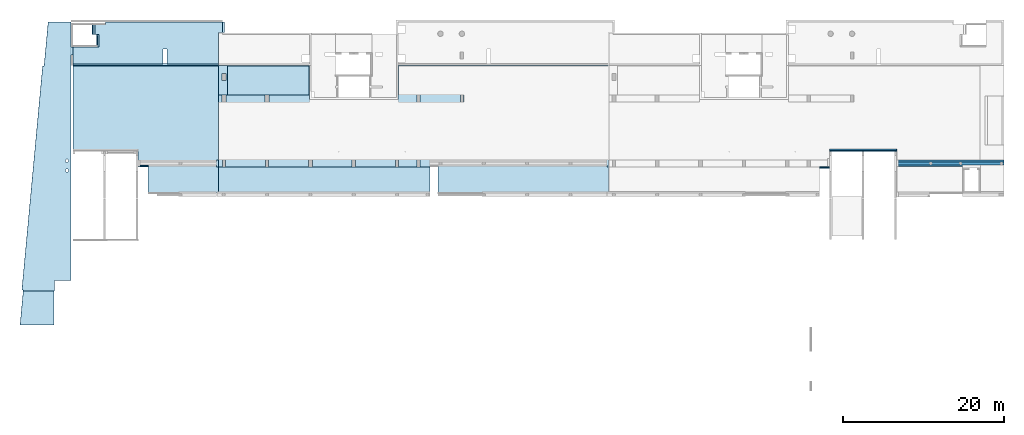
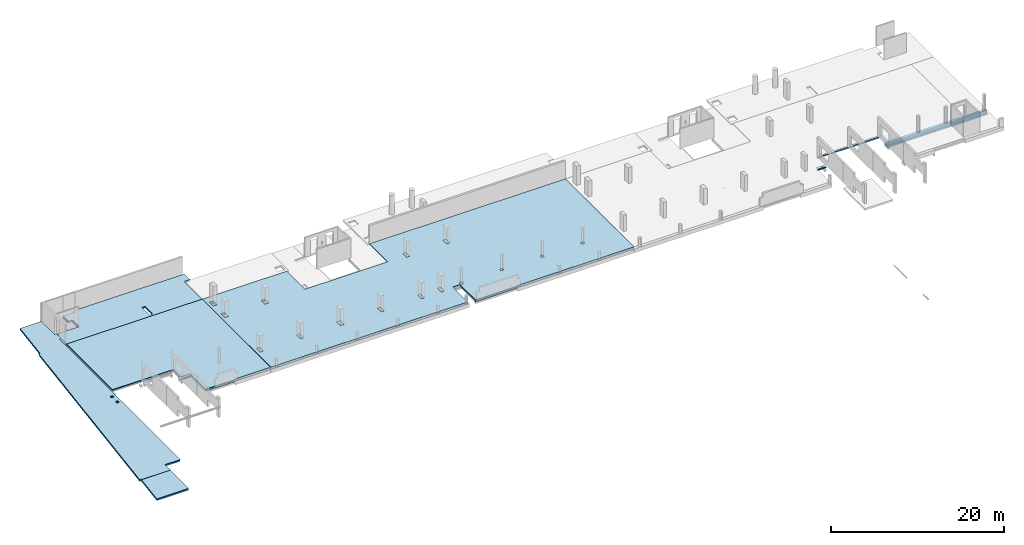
# One storey, part 2 of 8: 14 slabs, 4 beams, 30 openings.
"""IFC2X3 building model written with IfcOpenShell, lengths in millimetres."""

from ifc_helpers import new_model, entity, si_unit, converted_unit, derived_unit, direction, frame, frame_2d, origin, origin_2d_with_axis, place, context, subcontext, project, spatial, polyline, circle_curve, parameter, trimmed, segment, composite_curve, rectangle, circle, outline, extrude, faceted_brep, material, layer, layer_set, layer_usage, type_object, element, save


model = new_model("IFC2X3")

# Units and contexts
model_context = context("Model", 3, precision=0.01, world=origin(), true_north=direction((6.12303176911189e-17, 1.0)))
body_context = subcontext(model_context, "Body", "Model", "MODEL_VIEW")
ifc_project = project(units=[si_unit("LENGTHUNIT", "METRE", prefix="MILLI"), si_unit("AREAUNIT", "SQUARE_METRE"), si_unit("VOLUMEUNIT", "CUBIC_METRE"), converted_unit("PLANEANGLEUNIT", "DEGREE", entity("IfcRatioMeasure", 0.0174532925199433), si_unit("PLANEANGLEUNIT", "RADIAN"), dimensions=[0, 0, 0, 0, 0, 0, 0]), si_unit("MASSUNIT", "GRAM", prefix="KILO"), derived_unit("MASSDENSITYUNIT", [(si_unit("MASSUNIT", "GRAM", prefix="KILO"), 1), (si_unit("LENGTHUNIT", "METRE"), -3)]), si_unit("TIMEUNIT", "SECOND"), si_unit("FREQUENCYUNIT", "HERTZ"), si_unit("THERMODYNAMICTEMPERATUREUNIT", "DEGREE_CELSIUS"), derived_unit("THERMALTRANSMITTANCEUNIT", [(si_unit("MASSUNIT", "GRAM", prefix="KILO"), 1), (si_unit("THERMODYNAMICTEMPERATUREUNIT", "KELVIN"), -1), (si_unit("TIMEUNIT", "SECOND"), -3)]), derived_unit("VOLUMETRICFLOWRATEUNIT", [(si_unit("LENGTHUNIT", "METRE"), 3), (si_unit("TIMEUNIT", "SECOND"), -1)]), si_unit("ELECTRICCURRENTUNIT", "AMPERE"), si_unit("ELECTRICVOLTAGEUNIT", "VOLT"), si_unit("POWERUNIT", "WATT"), si_unit("FORCEUNIT", "NEWTON", prefix="KILO"), si_unit("ILLUMINANCEUNIT", "LUX"), si_unit("LUMINOUSFLUXUNIT", "LUMEN"), si_unit("LUMINOUSINTENSITYUNIT", "CANDELA"), derived_unit("USERDEFINED", [(si_unit("MASSUNIT", "GRAM", prefix="KILO"), -1), (si_unit("LENGTHUNIT", "METRE"), -2), (si_unit("TIMEUNIT", "SECOND"), 3), (si_unit("LUMINOUSFLUXUNIT", "LUMEN"), 1)]), derived_unit("LINEARVELOCITYUNIT", [(si_unit("LENGTHUNIT", "METRE"), 1), (si_unit("TIMEUNIT", "SECOND"), -1)]), si_unit("PRESSUREUNIT", "PASCAL"), derived_unit("USERDEFINED", [(si_unit("LENGTHUNIT", "METRE"), -2), (si_unit("MASSUNIT", "GRAM", prefix="KILO"), 1), (si_unit("TIMEUNIT", "SECOND"), -2)])], contexts=[model_context])

# Site, building, storey
site_placement = place(None, origin())
site = spatial("IfcSite", under=ifc_project, at=site_placement, Name="Default", CompositionType="ELEMENT")
building_placement = place(site_placement, origin())
building = spatial("IfcBuilding", under=site, at=building_placement, Name="niet gebruiken", CompositionType="ELEMENT")
storey_placement = place(building_placement, frame((0.0, 0.0, 3810.0)))
storey = spatial("IfcBuildingStorey", under=building, at=storey_placement, Name="01a eerste tussenverdieping", CompositionType="ELEMENT", Elevation=3810.0)

# Beams
ifc_material_1 = material(Name="NLRS_f2_beton prefab")
beam_type_1 = type_object("IfcBeamType", Name="NLRS_28.11_SF_WPB_prefabbeton balk dubbele sponning_gen:800x460/200x260/200x260", PredefinedType="BEAM")
beam_1_placement = place(storey_placement, frame((110845.0, 28881.0, -70.0)))
element("IfcBeam", 1, at=beam_1_placement, inside=storey, type_object=beam_type_1, material=ifc_material_1, Name="NLRS_28.11_SF_WPB_prefabbeton balk dubbele sponning_gen:800x460/200x260/200x260", ObjectType="NLRS_28.11_SF_WPB_prefabbeton balk dubbele sponning_gen:800x460/200x260/200x260", context=body_context, shape_type="SweptSolid", body=[
    extrude(outline(polyline([(15.0, -400.0), (215.0, -400.0), (215.0, 400.0), (15.0, 400.0), (15.0, 200.0), (-245.0, 200.0), (-245.0, -200.0), (15.0, -200.0), (15.0, -400.0)])), frame((0.0, 0.0, -245.0), z_axis=(1.0, 0.0, 0.0), x_axis=(0.0, 0.0, -1.0)), (0.0, 0.0, 1.0), 13354.999999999),
])
ifc_material_2 = material(Name="NLRS_h2_staal")
beam_type_2 = type_object("IfcBeamType", Name="NLRS_28.11_SF_WPB_stalen ligger hoekprofiel gelijkzijdig_gen:ligger gelijzijdig hoekprofiel LEQU_200x200x15", PredefinedType="BEAM")
beam_2_placement = place(storey_placement, frame((102475.0, 30626.0, -252.499999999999)))
element("IfcBeam", 2, at=beam_2_placement, inside=storey, type_object=beam_type_2, material=ifc_material_2, Name="NLRS_28.11_SF_WPB_stalen ligger hoekprofiel gelijkzijdig_gen:ligger gelijzijdig hoekprofiel LEQU_200x200x15", ObjectType="NLRS_28.11_SF_WPB_stalen ligger hoekprofiel gelijkzijdig_gen:ligger gelijzijdig hoekprofiel LEQU_200x200x15", context=body_context, shape_type="SweptSolid", body=[
    extrude(outline(composite_curve([segment(polyline([(-126.666666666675, -73.333333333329), (73.3333333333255, -73.333333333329)]), True, "CONTINUOUS"), segment(polyline([(73.333333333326, -73.3333333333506), (73.3333333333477, 126.666666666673)]), True, "CONTINUOUS"), segment(polyline([(73.3333333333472, 126.666666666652), (66.3333333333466, 126.666666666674)]), True, "CONTINUOUS"), segment(trimmed(circle_curve(frame_2d((66.3333333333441, 118.666666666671), x_axis=(0.0, 1.0)), 7.99999999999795), [parameter(0.0)], [parameter(90.0000000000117)], True, "PARAMETER"), True, "CONTINUOUS"), segment(polyline([(58.3333333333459, 118.666666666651), (58.3333333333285, -42.3333333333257)]), True, "CONTINUOUS"), segment(trimmed(circle_curve(frame_2d((42.3333333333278, -42.333333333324), x_axis=(1.0, 0.0)), 16.0000000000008), [parameter(270.000000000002)], [parameter(0.0)], True, "PARAMETER"), False, "CONTINUOUS"), segment(polyline([(42.3333333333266, -58.3333333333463), (-118.666666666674, -58.3333333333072)]), True, "CONTINUOUS"), segment(trimmed(circle_curve(frame_2d((-118.666666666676, -66.3333333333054), x_axis=(0.0, 1.0)), 7.99999999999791), [parameter(0.0)], [parameter(90.0000000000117)], True, "PARAMETER"), True, "CONTINUOUS"), segment(polyline([(-126.666666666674, -66.3333333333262), (-126.666666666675, -73.3333333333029)]), True, "CONTINUOUS")], self_intersect=False)), frame((0.0, -126.66666666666, -19.1666666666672), z_axis=(1.0, 0.0, 0.0), x_axis=(0.0, 0.0, -1.0)), (0.0, 0.0, 1.0), 8349.99999999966),
])
beam_type_3 = type_object("IfcBeamType", Name="NLRS_28.11_SF_WPB_prefabbeton balk recht_gen:200x140", PredefinedType="BEAM")
beam_3_placement = place(storey_placement, frame((16345.0, 28481.0, -330.0)))
element("IfcBeam", 3, at=beam_3_placement, inside=storey, type_object=beam_type_3, material=ifc_material_1, Name="NLRS_28.11_SF_WPB_prefabbeton balk recht_gen:200x140", ObjectType="NLRS_28.11_SF_WPB_prefabbeton balk recht_gen:200x140", context=body_context, shape_type="Brep", body=[
    faceted_brep([(0.0, 200.0, 140.0), (0.0, 200.0, 0.0), (0.0, 0.0, 0.0), (0.0, 0.0, 140.0), (1270.0, 0.0, 0.0), (1270.0, 200.0, 0.0), (1270.0, 200.0, 140.0), (1270.0, 180.0, 140.0), (1270.0, 180.0, 5.0), (1270.0, 0.0, 5.0), (1250.0, 0.0, 5.0), (1250.0, 0.0, 140.0), (1250.0, 180.0, 140.0), (1250.0, 180.0, 5.0)], [[[0, 1, 2, 3]], [[4, 5, 6, 7, 8, 9]], [[1, 0, 6, 5]], [[2, 1, 5, 4]], [[3, 2, 4, 9, 10, 11]], [[0, 3, 11, 12, 7, 6]], [[8, 13, 10, 9]], [[10, 13, 12, 11]], [[13, 8, 7, 12]]]),
])
beam_4_placement = place(storey_placement, frame((101225.1, 28356.0, -190.0)))
element("IfcBeam", 4, at=beam_4_placement, inside=storey, type_object=beam_type_3, material=ifc_material_1, Name="NLRS_28.11_SF_WPB_prefabbeton balk recht_gen:200x140", ObjectType="NLRS_28.11_SF_WPB_prefabbeton balk recht_gen:200x140", context=body_context, shape_type="SweptSolid", body=[
    extrude(rectangle(XDim=140.0, YDim=199.999999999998, at=frame_2d((-2.70006239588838e-13, 4.33431068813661e-12), x_axis=(1.0, 0.0))), frame((0.0, 0.0, -70.0), z_axis=(1.0, 0.0, 0.0), x_axis=(0.0, 0.0, -1.0)), (0.0, 0.0, 1.0), 1229.90000000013),
])

# Slabs
ifc_layer_1 = layer(ifc_material_1, 255.0)
ifc_layer_set_1 = layer_set([ifc_layer_1], Name="Floor:NLRS_23.21_FL_kanaalplaat d=255_gen")
ifc_layer_usage_1 = layer_usage(ifc_layer_set_1, "AXIS3", "POSITIVE", 0.0)
slab_1_placement = place(storey_placement, origin())
element("IfcSlab", 5, at=slab_1_placement, inside=storey, material=ifc_layer_usage_1, Name="Floor:NLRS_23.21_FL_kanaalplaat d=255_gen", ObjectType="Floor:NLRS_23.21_FL_kanaalplaat d=255_gen", PredefinedType="FLOOR", context=body_context, shape_type="SweptSolid", body=[
    extrude(outline(polyline([(-1732.50000000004, -11947.4999999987), (1807.49999999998, -11947.4999999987), (1807.49999999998, 9092.50000000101), (1582.50000000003, 9092.50000000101), (1582.50000000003, 9312.50000000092), (-1657.5, 9312.50000000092), (-1657.5, -6457.50000000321), (-1732.50000000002, -6457.50000000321), (-1732.50000000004, -11947.4999999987)])), frame((65637.4999999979, 26853.5, -70.0), z_axis=(0.0, 0.0, -1.0), x_axis=(0.0, 1.0, 0.0)), (0.0, 0.0, 1.0), 255.0),
])
ifc_layer_usage_2 = layer_usage(ifc_layer_set_1, "AXIS3", "POSITIVE", 0.0)
slab_2_placement = place(storey_placement, origin())
element("IfcSlab", 6, at=slab_2_placement, inside=storey, material=ifc_layer_usage_2, Name="Floor:NLRS_23.21_FL_kanaalplaat d=255_gen", ObjectType="Floor:NLRS_23.21_FL_kanaalplaat d=255_gen", PredefinedType="FLOOR", context=body_context, shape_type="SweptSolid", body=[
    extrude(rectangle(XDim=3240.00000000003, YDim=26329.9999999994, at=frame_2d((2.1600499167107e-12, -2.72848410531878e-12), x_axis=(1.0, 0.0))), frame((39535.0, 26816.0, -70.0), z_axis=(0.0, 0.0, -1.0), x_axis=(0.0, 1.0, 0.0)), (0.0, 0.0, 1.0), 255.0),
])
ifc_layer_usage_3 = layer_usage(ifc_layer_set_1, "AXIS3", "POSITIVE", 0.0)
slab_3_placement = place(storey_placement, origin())
element("IfcSlab", 7, at=slab_3_placement, inside=storey, material=ifc_layer_usage_3, Name="Floor:NLRS_23.21_FL_kanaalplaat d=255_gen", ObjectType="Floor:NLRS_23.21_FL_kanaalplaat d=255_gen", PredefinedType="FLOOR", context=body_context, shape_type="SweptSolid", body=[
    extrude(outline(polyline([(-1732.49999999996, -5273.75000000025), (1807.50000000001, -5273.75000000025), (1807.50000000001, 3261.25000000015), (1582.49999999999, 3261.25000000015), (1582.49999999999, 3481.25000000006), (-1657.50000000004, 3481.25000000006), (-1657.50000000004, -1468.74999999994), (-1732.49999999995, -1468.74999999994), (-1732.49999999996, -5273.75000000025)])), frame((22868.7499999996, 26853.5, -70.0), z_axis=(0.0, 0.0, -1.0), x_axis=(0.0, 1.0, 0.0)), (0.0, 0.0, 1.0), 255.0),
])
ifc_material_3 = material(Name="NLRS_f2_beton ihwg")
ifc_layer_2 = layer(ifc_material_3, 70.0)
ifc_layer_set_2 = layer_set([ifc_layer_2], Name="Floor:NLRS_23.21_FL_druklaag d=70 - gevlinderd en ingestrooid_gen")
ifc_layer_usage_4 = layer_usage(ifc_layer_set_2, "AXIS3", "POSITIVE", 0.0)
slab_4_placement = place(storey_placement, origin())
element("IfcSlab", 8, at=slab_4_placement, inside=storey, material=ifc_layer_usage_4, Name="Floor:NLRS_23.21_FL_druklaag d=70 - gevlinderd en ingestrooid_gen", ObjectType="Floor:NLRS_23.21_FL_druklaag d=70 - gevlinderd en ingestrooid_gen", PredefinedType="FLOOR", context=body_context, shape_type="SweptSolid", body=[
    extrude(outline(polyline([(337.0, -9758.0), (10972.0, -9758.0), (10972.0, 8367.0), (-4913.0, 8367.0), (-4913.0, 3417.0), (-4988.0, 3417.0), (-4988.0, -388.0), (-1408.0, -388.0), (-1408.0, -1638.0), (337.0, -1638.0), (337.0, -9758.0)])), frame((17983.0, 30089.0, 0.0), z_axis=(0.0, 0.0, -1.0), x_axis=(0.0, 1.0, 0.0)), (0.0, 0.0, 1.0), 69.9999999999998),
])

# Slab, openings
ifc_layer_usage_5 = layer_usage(ifc_layer_set_2, "AXIS3", "POSITIVE", 0.0)
slab_5_placement = place(storey_placement, frame((26370.0, 25101.0, -70.0)))
slab_5 = element("IfcSlab", 9, at=slab_5_placement, inside=storey, material=ifc_layer_usage_5, Name="Floor:NLRS_23.21_FL_druklaag d=70 - gevlinderd en ingestrooid_gen", ObjectType="Floor:NLRS_23.21_FL_druklaag d=70 - gevlinderd en ingestrooid_gen", PredefinedType="FLOOR", context=body_context, shape_type="SweptSolid", body=[
    extrude(outline(polyline([(24290.0, -7905.0), (24290.0, 7980.0), (12985.0, 7980.0), (12985.0, 3775.0), (1935.0, 3775.0), (1935.0, 7980.0), (-24290.0, 7980.0), (-24290.0, -7905.0), (-8540.0, -7905.0), (-8540.0, -7980.0), (-3030.0, -7980.0), (-3030.0, -4400.0), (-2040.0, -4400.0), (-2040.0, -7905.0), (24290.0, -7905.0)])), frame((24290.0, 7980.0, 70.0), z_axis=(0.0, 0.0, -1.0), x_axis=(-1.0, 0.0, 0.0)), (0.0, 0.0, 1.0), 69.9999999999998),
])
opening_1_placement = place(storey_placement, frame((26370.0, 25101.0, -70.0)))
element("IfcOpeningElement", 10, at=opening_1_placement, cuts=slab_5, ObjectType="Opening", context=body_context, shape_type="SweptSolid", body=[
    extrude(circle(Radius=37.5, at=frame_2d((1060.0, -2725.0), x_axis=(1.0, 0.0))), frame((24290.0, 7980.0, 70.0), z_axis=(0.0, 0.0, -1.0), x_axis=(-1.0, 0.0, 0.0)), (0.0, 0.0, 1.0), 69.9999999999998),
])
opening_2_placement = place(storey_placement, frame((26370.0, 25101.0, -70.0)))
element("IfcOpeningElement", 11, at=opening_2_placement, cuts=slab_5, ObjectType="Opening", context=body_context, shape_type="SweptSolid", body=[
    extrude(circle(Radius=37.5, at=frame_2d((9310.0, -2725.0), x_axis=(1.0, 0.0))), frame((24290.0, 7980.0, 70.0), z_axis=(0.0, 0.0, -1.0), x_axis=(-1.0, 0.0, 0.0)), (0.0, 0.0, 1.0), 69.9999999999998),
])
opening_3_placement = place(slab_5_placement, origin())
element("IfcOpeningElement", 12, at=opening_3_placement, cuts=slab_5, ObjectType="Opening", context=body_context, shape_type="SweptSolid", body=[
    extrude(rectangle(XDim=300.000000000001, YDim=720.000000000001, at=origin_2d_with_axis()), frame((11705.0, 12365.0, -270.0), z_axis=(0.0, 0.0, 1.0), x_axis=(-1.0, 0.0, 0.0)), (0.0, 0.0, 1.0), 250.0),
])
opening_4_placement = place(slab_5_placement, frame((655.0, 14555.0, 70.0)))
element("IfcOpeningElement", 13, at=opening_4_placement, cuts=slab_5, Name="Floor:NLRS_23.21_FL_druklaag d=70 - gevlinderd en ingestrooid_gen:2", ObjectType="Opening", context=body_context, shape_type="SweptSolid", body=[
    extrude(rectangle(XDim=500.000000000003, YDim=849.999999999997, at=origin_2d_with_axis()), frame((0.0, 0.0, 0.0), z_axis=(0.0, 0.0, -1.0), x_axis=(-1.0, 0.0, 0.0)), (0.0, 0.0, 1.0), 69.9999999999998),
])
opening_5_placement = place(slab_5_placement, frame((655.0, 11880.0, 70.0)))
element("IfcOpeningElement", 14, at=opening_5_placement, cuts=slab_5, Name="Floor:NLRS_23.21_FL_druklaag d=70 - gevlinderd en ingestrooid_gen:3", ObjectType="Opening", context=body_context, shape_type="SweptSolid", body=[
    extrude(rectangle(XDim=500.000000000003, YDim=850.000000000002, at=origin_2d_with_axis()), frame((0.0, 0.0, 0.0), z_axis=(0.0, 0.0, -1.0), x_axis=(-1.0, 0.0, 0.0)), (0.0, 0.0, 1.0), 69.9999999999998),
])
opening_6_placement = place(slab_5_placement, frame((6030.0, 11880.0, 70.0)))
element("IfcOpeningElement", 15, at=opening_6_placement, cuts=slab_5, Name="Floor:NLRS_23.21_FL_druklaag d=70 - gevlinderd en ingestrooid_gen:4", ObjectType="Opening", context=body_context, shape_type="SweptSolid", body=[
    extrude(rectangle(XDim=850.000000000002, YDim=499.999999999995, at=origin_2d_with_axis()), frame((0.0, 0.0, 0.0), z_axis=(0.0, 0.0, -1.0), x_axis=(0.0, -1.0, 0.0)), (0.0, 0.0, 1.0), 69.9999999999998),
])
opening_7_placement = place(slab_5_placement, frame((24905.0, 11880.0, 70.0)))
element("IfcOpeningElement", 16, at=opening_7_placement, cuts=slab_5, Name="Floor:NLRS_23.21_FL_druklaag d=70 - gevlinderd en ingestrooid_gen:5", ObjectType="Opening", context=body_context, shape_type="SweptSolid", body=[
    extrude(rectangle(XDim=850.000000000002, YDim=399.999999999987, at=origin_2d_with_axis()), frame((0.0, 0.0, 0.0), z_axis=(0.0, 0.0, -1.0), x_axis=(0.0, -1.0, 0.0)), (0.0, 0.0, 1.0), 69.9999999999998),
])
opening_8_placement = place(slab_5_placement, frame((30305.0, 11880.0, 70.0)))
element("IfcOpeningElement", 17, at=opening_8_placement, cuts=slab_5, Name="Floor:NLRS_23.21_FL_druklaag d=70 - gevlinderd en ingestrooid_gen:6", ObjectType="Opening", context=body_context, shape_type="SweptSolid", body=[
    extrude(rectangle(XDim=850.000000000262, YDim=399.999999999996, at=origin_2d_with_axis()), frame((0.0, 0.0, 0.0), z_axis=(0.0, 0.0, -1.0), x_axis=(0.0, -1.0, 0.0)), (0.0, 0.0, 1.0), 69.9999999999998),
])
opening_9_placement = place(slab_5_placement, frame((655.0, 3780.0, 70.0)))
element("IfcOpeningElement", 18, at=opening_9_placement, cuts=slab_5, Name="Floor:NLRS_23.21_FL_druklaag d=70 - gevlinderd en ingestrooid_gen:7", ObjectType="Opening", context=body_context, shape_type="SweptSolid", body=[
    extrude(rectangle(XDim=400.0, YDim=850.000000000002, at=origin_2d_with_axis()), frame((0.0, 0.0, 0.0), z_axis=(0.0, 0.0, -1.0), x_axis=(1.0, 0.0, 0.0)), (0.0, 0.0, 1.0), 69.9999999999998),
])
opening_10_placement = place(slab_5_placement, frame((6030.0, 3780.0, 70.0)))
element("IfcOpeningElement", 19, at=opening_10_placement, cuts=slab_5, Name="Floor:NLRS_23.21_FL_druklaag d=70 - gevlinderd en ingestrooid_gen:8", ObjectType="Opening", context=body_context, shape_type="SweptSolid", body=[
    extrude(rectangle(XDim=850.000000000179, YDim=400.0, at=origin_2d_with_axis()), frame((0.0, 0.0, 0.0), z_axis=(0.0, 0.0, 1.0), x_axis=(0.0, -1.0, 0.0)), (0.0, 0.0, -1.0), 69.9999999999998),
])
opening_11_placement = place(slab_5_placement, frame((11430.0, 3780.0, 70.0)))
element("IfcOpeningElement", 20, at=opening_11_placement, cuts=slab_5, Name="Floor:NLRS_23.21_FL_druklaag d=70 - gevlinderd en ingestrooid_gen:9", ObjectType="Opening", context=body_context, shape_type="SweptSolid", body=[
    extrude(rectangle(XDim=850.000000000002, YDim=499.999999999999, at=origin_2d_with_axis()), frame((0.0, 0.0, 0.0), z_axis=(0.0, 0.0, -1.0), x_axis=(0.0, -1.0, 0.0)), (0.0, 0.0, 1.0), 69.9999999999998),
])
opening_12_placement = place(slab_5_placement, frame((16830.0, 3780.0, 70.0)))
element("IfcOpeningElement", 21, at=opening_12_placement, cuts=slab_5, Name="Floor:NLRS_23.21_FL_druklaag d=70 - gevlinderd en ingestrooid_gen:10", ObjectType="Opening", context=body_context, shape_type="SweptSolid", body=[
    extrude(rectangle(XDim=850.000000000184, YDim=399.999999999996, at=origin_2d_with_axis()), frame((0.0, 0.0, 0.0), z_axis=(0.0, 0.0, 1.0), x_axis=(0.0, -1.0, 0.0)), (0.0, 0.0, -1.0), 69.9999999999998),
])
opening_13_placement = place(slab_5_placement, frame((22230.0, 3780.0, 70.0)))
element("IfcOpeningElement", 22, at=opening_13_placement, cuts=slab_5, Name="Floor:NLRS_23.21_FL_druklaag d=70 - gevlinderd en ingestrooid_gen:11", ObjectType="Opening", context=body_context, shape_type="SweptSolid", body=[
    extrude(rectangle(XDim=850.000000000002, YDim=399.999999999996, at=origin_2d_with_axis()), frame((0.0, 0.0, 0.0), z_axis=(0.0, 0.0, -1.0), x_axis=(0.0, -1.0, 0.0)), (0.0, 0.0, 1.0), 69.9999999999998),
])
opening_14_placement = place(slab_5_placement, frame((24904.6771009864, 3780.0, 70.0)))
element("IfcOpeningElement", 23, at=opening_14_placement, cuts=slab_5, Name="Floor:NLRS_23.21_FL_druklaag d=70 - gevlinderd en ingestrooid_gen:12", ObjectType="Opening", context=body_context, shape_type="SweptSolid", body=[
    extrude(rectangle(XDim=849.999999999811, YDim=404.557862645, at=origin_2d_with_axis()), frame((0.0, 0.0, 0.0), z_axis=(0.0, 0.0, -1.0), x_axis=(0.0, -1.0, 0.0)), (0.0, 0.0, 1.0), 69.9999999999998),
])
opening_15_placement = place(slab_5_placement, frame((27630.0, 3780.0, 70.0)))
element("IfcOpeningElement", 24, at=opening_15_placement, cuts=slab_5, Name="Floor:NLRS_23.21_FL_druklaag d=70 - gevlinderd en ingestrooid_gen:13", ObjectType="Opening", context=body_context, shape_type="SweptSolid", body=[
    extrude(circle(Radius=200.0, at=origin_2d_with_axis()), frame((0.0, 0.0, 0.0), z_axis=(0.0, 0.0, -1.0), x_axis=(1.0, 0.0, 0.0)), (0.0, 0.0, 1.0), 69.9999999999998),
])
opening_16_placement = place(slab_5_placement, frame((33030.0, 3780.0, 70.0)))
element("IfcOpeningElement", 25, at=opening_16_placement, cuts=slab_5, Name="Floor:NLRS_23.21_FL_druklaag d=70 - gevlinderd en ingestrooid_gen:14", ObjectType="Opening", context=body_context, shape_type="SweptSolid", body=[
    extrude(circle(Radius=200.0, at=origin_2d_with_axis()), frame((0.0, 0.0, 0.0), z_axis=(0.0, 0.0, -1.0), x_axis=(1.0, 0.0, 0.0)), (0.0, 0.0, 1.0), 69.9999999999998),
])
opening_17_placement = place(slab_5_placement, frame((38430.0, 3780.0, 70.0)))
element("IfcOpeningElement", 26, at=opening_17_placement, cuts=slab_5, Name="Floor:NLRS_23.21_FL_druklaag d=70 - gevlinderd en ingestrooid_gen:15", ObjectType="Opening", context=body_context, shape_type="SweptSolid", body=[
    extrude(circle(Radius=200.0, at=origin_2d_with_axis()), frame((0.0, 0.0, 0.0), z_axis=(0.0, 0.0, -1.0), x_axis=(1.0, 0.0, 0.0)), (0.0, 0.0, 1.0), 69.9999999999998),
])
opening_18_placement = place(slab_5_placement, frame((43830.0, 3780.0, 70.0)))
element("IfcOpeningElement", 27, at=opening_18_placement, cuts=slab_5, Name="Floor:NLRS_23.21_FL_druklaag d=70 - gevlinderd en ingestrooid_gen:16", ObjectType="Opening", context=body_context, shape_type="SweptSolid", body=[
    extrude(circle(Radius=200.0, at=origin_2d_with_axis()), frame((0.0, 0.0, 0.0), z_axis=(0.0, 0.0, -1.0), x_axis=(1.0, 0.0, 0.0)), (0.0, 0.0, 1.0), 69.9999999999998),
])

# Slabs
ifc_layer_usage_6 = layer_usage(ifc_layer_set_1, "AXIS3", "POSITIVE", 0.0)
slab_6_placement = place(storey_placement, origin())
element("IfcSlab", 28, at=slab_6_placement, inside=storey, material=ifc_layer_usage_6, Name="Floor:NLRS_23.21_FL_kanaalplaat d=255_gen", ObjectType="Floor:NLRS_23.21_FL_kanaalplaat d=255_gen", PredefinedType="FLOOR", context=body_context, shape_type="SweptSolid", body=[
    extrude(outline(polyline([(-2024.99314767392, -11022.5), (8560.00685232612, -11022.5), (8560.00685232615, 7082.49999999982), (-3155.02055697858, 7082.49999999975), (-3155.02055697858, 6862.50000000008), (-3379.99314767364, 6862.50000000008), (-3379.99314767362, -2922.4999999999), (-2024.99314767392, -2922.49999999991), (-2024.99314767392, -11022.5)])), frame((19267.4999999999, 32480.9931476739, -70.0), z_axis=(0.0, 0.0, -1.0), x_axis=(0.0, 1.0, 0.0)), (0.0, 0.0, 1.0), 255.0),
])
ifc_layer_usage_7 = layer_usage(ifc_layer_set_1, "AXIS3", "POSITIVE", 0.0)
slab_7_placement = place(storey_placement, frame((26370.0, 29101.0, -325.0)))
element("IfcSlab", 29, at=slab_7_placement, inside=storey, material=ifc_layer_usage_7, Name="Floor:NLRS_23.21_FL_kanaalplaat d=255_gen", ObjectType="Floor:NLRS_23.21_FL_kanaalplaat d=255_gen", PredefinedType="FLOOR", context=body_context, shape_type="SweptSolid", body=[
    extrude(rectangle(XDim=3614.99999999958, YDim=10199.999999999, at=frame_2d((18105.0, 4162.49999999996), x_axis=(0.0, -1.0))), frame((24290.0, 5970.0, 255.0), z_axis=(0.0, 0.0, -1.0), x_axis=(-1.0, 0.0, 0.0)), (0.0, 0.0, 1.0), 255.0),
])

# Slab, openings
ifc_layer_3 = layer(ifc_material_1, 200.0)
ifc_layer_set_3 = layer_set([ifc_layer_3], Name="Floor:NLRS_23.21_FL_kanaalplaat d=200_gen")
ifc_layer_usage_8 = layer_usage(ifc_layer_set_3, "AXIS3", "POSITIVE", 0.0)
slab_8_placement = place(storey_placement, frame((1647.95600482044, 8766.0, -270.0)))
slab_8 = element("IfcSlab", 30, at=slab_8_placement, inside=storey, material=ifc_layer_usage_8, Name="Floor:NLRS_23.21_FL_kanaalplaat d=200_gen", ObjectType="Floor:NLRS_23.21_FL_kanaalplaat d=200_gen", PredefinedType="FLOOR", context=body_context, shape_type="SweptSolid", body=[
    extrude(outline(polyline([(-1073.52199758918, -18855.0), (3153.5219975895, -18855.0), (2762.35169976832, -14635.0), (-1073.52199758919, -14635.0), (-1073.52199758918, -18855.0)])), frame((3153.5219975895, 18855.0, 200.0), z_axis=(0.0, 0.0, -1.0), x_axis=(-1.0, 0.0, 0.0)), (0.0, 0.0, 1.0), 200.0),
])
placement_1 = place(slab_8_placement, origin())
element("IfcOpeningElement", 31, at=placement_1, cuts=slab_8, ObjectType="Opening", context=body_context, shape_type="SweptSolid", body=[
    extrude(circle(Radius=200.0, at=origin_2d_with_axis()), frame((5827.04399517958, 20440.0, -10.0)), (0.0, 0.0, 1.0), 280.0),
])
placement_2 = place(slab_8_placement, origin())
element("IfcOpeningElement", 32, at=placement_2, cuts=slab_8, ObjectType="Opening", context=body_context, shape_type="SweptSolid", body=[
    extrude(circle(Radius=200.0, at=origin_2d_with_axis()), frame((5827.04399517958, 19240.0, -10.0)), (0.0, 0.0, 1.0), 280.0),
])

slab_9_placement = place(storey_placement, frame((1647.95600482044, 8766.0, -270.0)))
slab_9 = element("IfcSlab", 33, at=slab_9_placement, inside=storey, material=ifc_layer_usage_8, Name="Floor:NLRS_23.21_FL_kanaalplaat d=200_gen:2", ObjectType="Floor:NLRS_23.21_FL_kanaalplaat d=200_gen", PredefinedType="FLOOR", context=body_context, shape_type="SweptSolid", body=[
    extrude(outline(polyline([(-3153.52199758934, -13335.0), (-1103.52199758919, -13335.0), (-1103.52199758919, -14615.0), (2760.49781210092, -14615.0), (2751.79132362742, -14521.073182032), (2931.02296913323, -14504.4594151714), (347.58344465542, 13366.0482742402), (168.322986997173, 13349.4318366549), (-342.015891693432, 18855.0), (-3153.5219975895, 18855.0), (-3153.52199758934, -13335.0)])), frame((3153.5219975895, 18855.0, 200.0), z_axis=(0.0, 0.0, -1.0), x_axis=(-1.0, 0.0, 0.0)), (0.0, 0.0, 1.0), 200.0),
])
element("IfcOpeningElement", 34, at=placement_1, cuts=slab_9, ObjectType="Opening", context=body_context, shape_type="SweptSolid", body=[
    extrude(circle(Radius=200.0, at=origin_2d_with_axis()), frame((5827.04399517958, 20440.0, -10.0)), (0.0, 0.0, 1.0), 280.0),
])
element("IfcOpeningElement", 35, at=placement_2, cuts=slab_9, ObjectType="Opening", context=body_context, shape_type="SweptSolid", body=[
    extrude(circle(Radius=200.0, at=origin_2d_with_axis()), frame((5827.04399517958, 19240.0, -10.0)), (0.0, 0.0, 1.0), 280.0),
])

ifc_layer_4 = layer(ifc_material_3, 250.0)
ifc_layer_set_4 = layer_set([ifc_layer_4], Name="Floor:NLRS_23.21_FL_breedplaat d=70/250_schil apart - gevlinderd_gen")
ifc_layer_usage_9 = layer_usage(ifc_layer_set_4, "AXIS3", "POSITIVE", 0.0)
slab_10_placement = place(storey_placement, frame((8225.0, 41061.0, -250.0)))
slab_10 = element("IfcSlab", 36, at=slab_10_placement, inside=storey, material=ifc_layer_usage_9, Name="Floor:NLRS_23.21_FL_breedplaat d=70/250_schil apart - gevlinderd_gen", ObjectType="Floor:NLRS_23.21_FL_breedplaat d=70/250_schil apart - gevlinderd_gen", PredefinedType="FLOOR", context=body_context, shape_type="SweptSolid", body=[
    extrude(outline(polyline([(9437.49999999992, -382.499999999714), (6512.50000000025, -382.499999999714), (6512.50000000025, 1147.49999999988), (7052.50000000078, 1147.49999999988), (7052.50000000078, 2397.49999999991), (5387.5000950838, 2397.49999999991), (5387.5000950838, 2717.49999999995), (-9437.49999999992, 2717.49999999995), (-9437.49999999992, 1397.49999999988), (-8687.49999999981, 1397.49999999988), (-8687.49999999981, -2717.49999999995), (9437.49999999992, -2717.49999999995), (9437.49999999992, -382.499999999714)])), frame((9437.49999999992, 2717.49999999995, 250.0), z_axis=(0.0, 0.0, -1.0), x_axis=(-1.0, 0.0, 0.0)), (0.0, 0.0, 1.0), 250.0),
])
opening_23_placement = place(slab_10_placement, origin())
element("IfcOpeningElement", 37, at=opening_23_placement, cuts=slab_10, ObjectType="Opening", context=body_context, shape_type="SweptSolid", body=[
    extrude(rectangle(XDim=1250.0, YDim=110.000000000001, at=origin_2d_with_axis()), frame((2440.0, 4490.0, 120.0), z_axis=(0.0, 0.0, 1.0), x_axis=(0.0, -1.0, 0.0)), (0.0, 0.0, 1.0), 130.0),
])
opening_24_placement = place(slab_10_placement, origin())
element("IfcOpeningElement", 38, at=opening_24_placement, cuts=slab_10, ObjectType="Opening", context=body_context, shape_type="SweptSolid", body=[
    extrude(rectangle(XDim=110.000000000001, YDim=1270.00000000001, at=origin_2d_with_axis()), frame((2980.0, 3150.0, 120.0), z_axis=(0.0, 0.0, 1.0), x_axis=(-1.0, 0.0, 0.0)), (0.0, 0.0, 1.0), 130.0),
])
opening_25_placement = place(slab_10_placement, origin())
element("IfcOpeningElement", 39, at=opening_25_placement, cuts=slab_10, ObjectType="Opening", context=body_context, shape_type="SweptSolid", body=[
    extrude(rectangle(XDim=1800.00000000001, YDim=450.000000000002, at=origin_2d_with_axis()), frame((11470.0, 1150.0, 0.0), z_axis=(0.0, 0.0, 1.0), x_axis=(0.0, -1.0, 0.0)), (0.0, 0.0, 1.0), 250.0),
])

ifc_layer_5 = layer(ifc_material_3, 70.0)
ifc_layer_set_5 = layer_set([ifc_layer_5], Name="Floor:NLRS_23.21_FL_druklaag d=70 - gevlinderd_gen")
ifc_layer_usage_10 = layer_usage(ifc_layer_set_5, "AXIS3", "POSITIVE", 0.0)
slab_11_placement = place(storey_placement, frame((1626.01637844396, 8746.0, -70.0)))
slab_11 = element("IfcSlab", 40, at=slab_11_placement, inside=storey, material=ifc_layer_usage_10, Name="Floor:NLRS_23.21_FL_druklaag d=70 - gevlinderd_gen", ObjectType="Floor:NLRS_23.21_FL_druklaag d=70 - gevlinderd_gen", PredefinedType="FLOOR", context=body_context, shape_type="SweptSolid", body=[
    extrude(outline(polyline([(-199.750398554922, 18875.0), (-3049.49181077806, 18875.0), (-3049.49181077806, 15775.0), (-3299.49181077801, 15775.0), (-3299.49181077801, 14750.0), (-3049.49181077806, 14750.0), (-3049.49181077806, 14264.6111750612), (-3049.49181077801, -13355.0), (-999.491810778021, -13355.0), (-999.491810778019, -14615.0), (2904.61373762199, -14615.0), (2897.5821118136, -14539.1418352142), (3076.81375731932, -14522.5280683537), (489.683032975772, 13387.8008025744), (310.419962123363, 13371.2106426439), (-199.750398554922, 18875.0)])), frame((3299.49181077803, 18875.0, 70.0), z_axis=(0.0, 0.0, -1.0), x_axis=(-1.0, 0.0, 0.0)), (0.0, 0.0, 1.0), 69.9999999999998),
])
placement_3 = place(slab_11_placement, origin())
element("IfcOpeningElement", 41, at=placement_3, cuts=slab_11, ObjectType="Opening", context=body_context, shape_type="SweptSolid", body=[
    extrude(circle(Radius=200.0, at=origin_2d_with_axis()), frame((5848.98362155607, 20460.0, -210.0)), (0.0, 0.0, 1.0), 280.0),
])
placement_4 = place(slab_11_placement, origin())
element("IfcOpeningElement", 42, at=placement_4, cuts=slab_11, ObjectType="Opening", context=body_context, shape_type="SweptSolid", body=[
    extrude(circle(Radius=200.0, at=origin_2d_with_axis()), frame((5848.98362155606, 19260.0, -210.0)), (0.0, 0.0, 1.0), 280.0),
])

slab_12_placement = place(storey_placement, frame((1626.01637844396, 8746.0, -70.0)))
slab_12 = element("IfcSlab", 43, at=slab_12_placement, inside=storey, material=ifc_layer_usage_10, Name="Floor:NLRS_23.21_FL_druklaag d=70 - gevlinderd_gen:2", ObjectType="Floor:NLRS_23.21_FL_druklaag d=70 - gevlinderd_gen", PredefinedType="FLOOR", context=body_context, shape_type="SweptSolid", body=[
    extrude(outline(polyline([(-949.49181077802, -14635.0), (-949.491810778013, -18875.0), (3299.49181077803, -18875.0), (2906.46762528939, -14635.0), (-949.49181077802, -14635.0)])), frame((3299.49181077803, 18875.0, 70.0), z_axis=(0.0, 0.0, -1.0), x_axis=(-1.0, 0.0, 0.0)), (0.0, 0.0, 1.0), 69.9999999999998),
])
element("IfcOpeningElement", 44, at=placement_3, cuts=slab_12, ObjectType="Opening", context=body_context, shape_type="SweptSolid", body=[
    extrude(circle(Radius=200.0, at=origin_2d_with_axis()), frame((5848.98362155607, 20460.0, -210.0)), (0.0, 0.0, 1.0), 280.0),
])
element("IfcOpeningElement", 45, at=placement_4, cuts=slab_12, ObjectType="Opening", context=body_context, shape_type="SweptSolid", body=[
    extrude(circle(Radius=200.0, at=origin_2d_with_axis()), frame((5848.98362155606, 19260.0, -210.0)), (0.0, 0.0, 1.0), 280.0),
])

# Slab
ifc_layer_6 = layer(ifc_material_1, 70.0)
ifc_layer_set_6 = layer_set([ifc_layer_6], Name="Floor:NLRS_23.21_FL_breedplaatschil d=70_gen")
ifc_layer_usage_11 = layer_usage(ifc_layer_set_6, "AXIS3", "POSITIVE", 0.0)
slab_13_placement = place(storey_placement, origin())
element("IfcSlab", 46, at=slab_13_placement, inside=storey, material=ifc_layer_usage_11, Name="Floor:NLRS_23.21_FL_breedplaatschil d=70_gen", ObjectType="Floor:NLRS_23.21_FL_breedplaatschil d=70_gen", PredefinedType="FLOOR", context=body_context, shape_type="SweptSolid", body=[
    extrude(outline(polyline([(-2689.37499999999, -8702.4999881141), (-604.374999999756, -8702.4999881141), (-604.374999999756, -5497.49998811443), (945.624999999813, -5497.49998811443), (945.624999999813, -5967.49998811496), (2175.62499999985, -5967.49998811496), (2175.62499999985, -4652.50008319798), (2535.62499999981, -4652.50008319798), (2535.62499999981, 9922.5000118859), (1195.62499999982, 9922.5000118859), (1195.62499999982, 9402.50001188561), (-2689.37499999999, 9402.50001188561), (-2689.37499999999, 2972.50001188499), (-869.374999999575, 2972.50001188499), (-869.374999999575, 2522.50001188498), (-2689.37499999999, 2522.50001188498), (-2689.37499999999, -8702.4999881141)])), frame((16947.4999881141, 43980.3750000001, -180.0), z_axis=(0.0, 0.0, -1.0), x_axis=(0.0, 1.0, 0.0)), (0.0, 0.0, 1.0), 69.9999999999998),
])

# Slab, opening
ifc_layer_7 = layer(ifc_material_3, 255.0)
ifc_layer_set_7 = layer_set([ifc_layer_7], Name="Floor:NLRS_23.21_FL_beton ihwg d=255_gen")
ifc_layer_usage_12 = layer_usage(ifc_layer_set_7, "AXIS3", "POSITIVE", 0.0)
slab_14_placement = place(storey_placement, frame((26370.0, 37426.0, -325.0)))
slab_14 = element("IfcSlab", 47, at=slab_14_placement, inside=storey, material=ifc_layer_usage_12, Name="Floor:NLRS_23.21_FL_beton ihwg d=255_gen", ObjectType="Floor:NLRS_23.21_FL_beton ihwg d=255_gen", PredefinedType="FLOOR", context=body_context, shape_type="SweptSolid", body=[
    extrude(rectangle(XDim=3634.99999999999, YDim=1085.00000000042, at=frame_2d((0.0, 0.0), x_axis=(0.0, -1.0))), frame((542.500000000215, 1817.49999999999, 255.0), z_axis=(0.0, 0.0, -1.0), x_axis=(-1.0, 0.0, 0.0)), (0.0, 0.0, 1.0), 255.0),
])
opening_30_placement = place(slab_14_placement, frame((655.0, 2230.0, 255.0)))
element("IfcOpeningElement", 48, at=opening_30_placement, cuts=slab_14, Name="Floor:NLRS_23.21_FL_beton ihwg d=255_gen:2", ObjectType="Opening", context=body_context, shape_type="SweptSolid", body=[
    extrude(rectangle(XDim=849.999999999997, YDim=499.999999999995, at=origin_2d_with_axis()), frame((0.0, 0.0, 0.0), z_axis=(0.0, 0.0, -1.0), x_axis=(0.0, -1.0, 0.0)), (0.0, 0.0, 1.0), 255.0),
])

save(model, "model.ifc")
